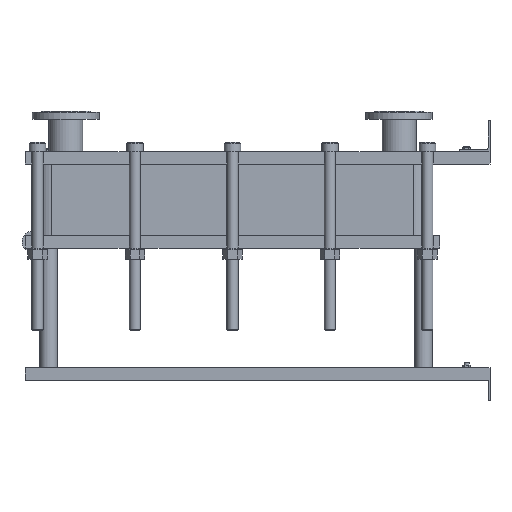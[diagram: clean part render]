
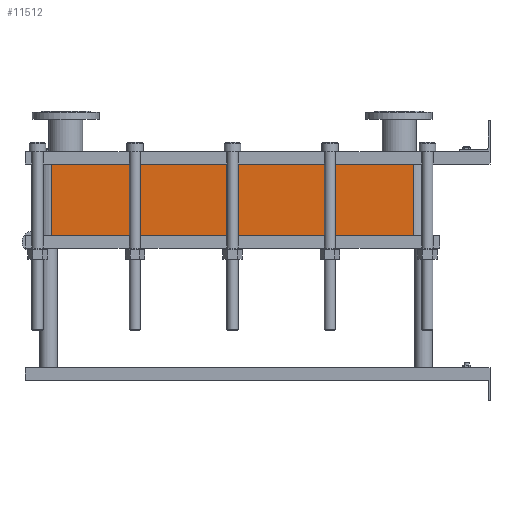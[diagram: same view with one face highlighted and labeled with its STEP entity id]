
A CAD part, left-side view. The second image highlights one B-rep face of the part: STEP entity #11512.
In plain terms, the highlighted planar face has unit normal (-1, 0, 0).
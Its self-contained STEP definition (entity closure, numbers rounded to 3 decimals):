
#1129=LINE('',#23232,#2102);
#1130=LINE('',#23236,#2103);
#1131=LINE('',#23238,#2104);
#1132=LINE('',#23239,#2105);
#2102=VECTOR('',#15887,10.);
#2103=VECTOR('',#15892,10.);
#2104=VECTOR('',#15893,10.);
#2105=VECTOR('',#15894,10.);
#3267=FACE_OUTER_BOUND('',#4093,.T.);
#4093=EDGE_LOOP('',(#10103,#10104,#10105,#10106));
#5642=VERTEX_POINT('',#23229);
#5643=VERTEX_POINT('',#23231);
#5644=VERTEX_POINT('',#23235);
#5645=VERTEX_POINT('',#23237);
#7159=EDGE_CURVE('',#5643,#5642,#1129,.T.);
#7161=EDGE_CURVE('',#5642,#5644,#1130,.T.);
#7162=EDGE_CURVE('',#5645,#5644,#1131,.T.);
#7163=EDGE_CURVE('',#5645,#5643,#1132,.T.);
#10103=ORIENTED_EDGE('',*,*,#7161,.T.);
#10104=ORIENTED_EDGE('',*,*,#7162,.F.);
#10105=ORIENTED_EDGE('',*,*,#7163,.T.);
#10106=ORIENTED_EDGE('',*,*,#7159,.T.);
#10857=PLANE('',#12751);
#11512=ADVANCED_FACE('',(#3267),#10857,.T.);
#12751=AXIS2_PLACEMENT_3D('',#23234,#15890,#15891);
#15887=DIRECTION('',(0.,0.,-1.));
#15890=DIRECTION('center_axis',(-1.,0.,0.));
#15891=DIRECTION('ref_axis',(0.,1.,0.));
#15892=DIRECTION('',(0.,-1.,0.));
#15893=DIRECTION('',(0.,0.,-1.));
#15894=DIRECTION('',(0.,1.,0.));
#23229=CARTESIAN_POINT('',(-200.,1414.,-231.15));
#23231=CARTESIAN_POINT('',(-200.,1414.,0.));
#23232=CARTESIAN_POINT('',(-200.,1414.,0.));
#23234=CARTESIAN_POINT('Origin',(-200.,248.,0.));
#23235=CARTESIAN_POINT('',(-200.,248.,-231.15));
#23236=CARTESIAN_POINT('',(-200.,539.5,-231.15));
#23237=CARTESIAN_POINT('',(-200.,248.,0.));
#23238=CARTESIAN_POINT('',(-200.,248.,0.));
#23239=CARTESIAN_POINT('',(-200.,248.,0.));
